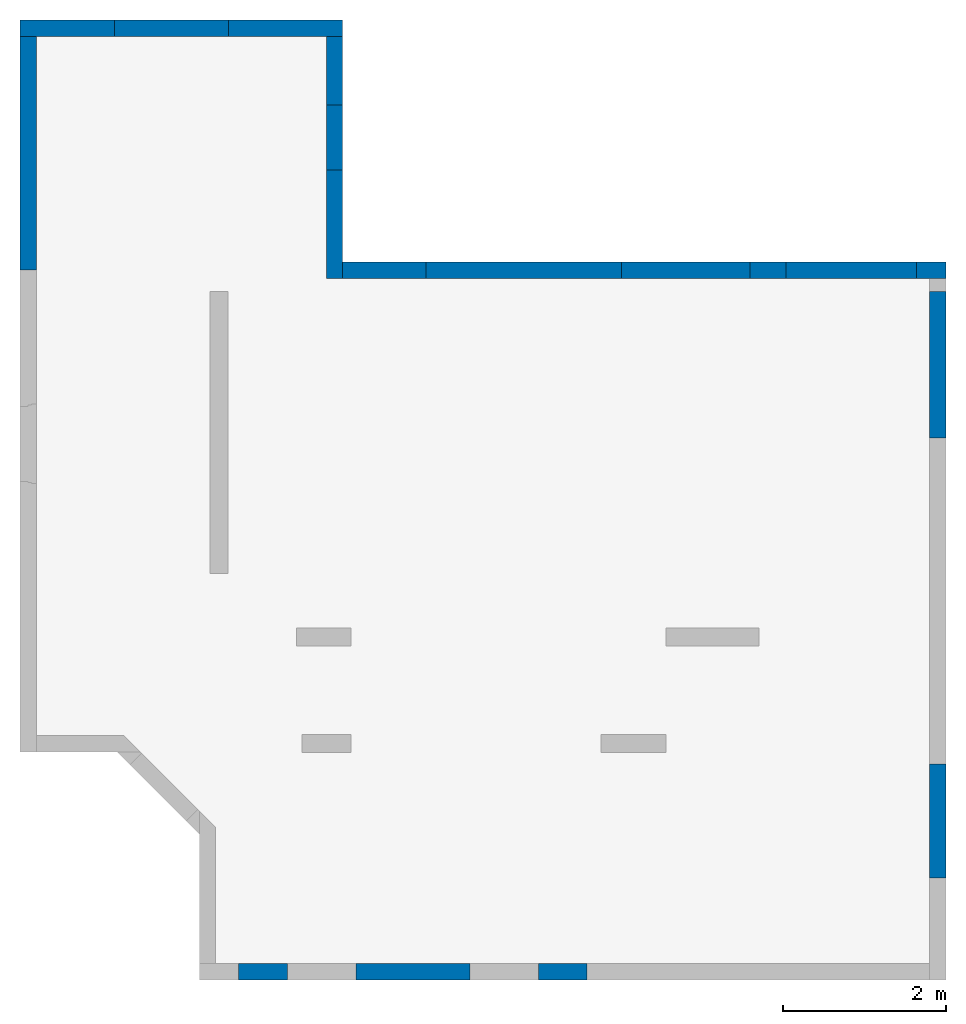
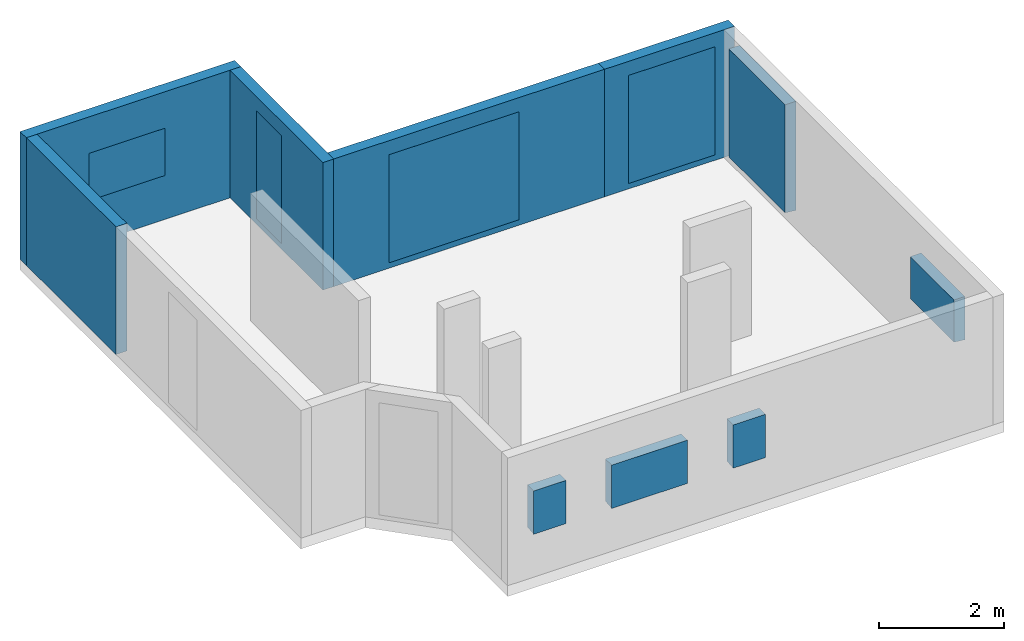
# One storey, part 2 of 3: 14 walls, 9 openings.
"""IFC2X3 building model written with IfcOpenShell, lengths in centimetres."""

import ifcopenshell
import ifcopenshell.guid

model = None  # the IFC model being written
_history = None  # IfcOwnerHistory: only IFC2X3 demands one
_inside = {}  # id of a spatial element -> (the spatial element, [elements in it])
_under = {}  # id of a project, library or spatial element -> (it, [spatial elements below it])
_declared = {}  # id of a project -> (the project, [libraries it declares])
_typed = {}  # id of a type object -> (the type object, [elements of that type])
_made_of = {}  # id of a material, layer set ... -> (it, [elements and type objects made of it])


def new_model(schema):
    """Start an empty IFC model of exactly this schema.

    Asked for "IFC4X3", IfcOpenShell would pick the latest addendum, in which some entities
    have other attributes; the version numbers below select the first issue.
    IFC2X3 requires an IfcOwnerHistory on every rooted entity: one is made here for all.
    """
    global model, _history
    if schema == "IFC4X3":
        model = ifcopenshell.file(schema_version=(4, 3, 0, 0))
    else:
        model = ifcopenshell.file(schema=schema)
    _inside.clear()
    _under.clear()
    _declared.clear()
    _typed.clear()
    _made_of.clear()
    _history = None
    if model.schema == "IFC2X3":
        org = make("IfcOrganization", Name="unknown")
        user = make(
            "IfcPersonAndOrganization",
            ThePerson=make("IfcPerson", FamilyName="unknown"),
            TheOrganization=org,
        )
        app = make(
            "IfcApplication",
            ApplicationDeveloper=org,
            Version="unknown",
            ApplicationFullName="unknown",
            ApplicationIdentifier="unknown",
        )
        _history = make(
            "IfcOwnerHistory",
            OwningUser=user,
            OwningApplication=app,
            ChangeAction="ADDED",
            CreationDate=0,
        )
    return model


def make(cls, **values):
    """One entity of the class cls with the attributes given. An attribute that is None is left unset."""
    return model.create_entity(
        cls, **{name: value for name, value in values.items() if value is not None}
    )


def entity(cls, *values):
    """Any entity or typed value of the class cls, its attributes in the order of the schema. None: left unset."""
    e = model.create_entity(cls)
    for i, value in enumerate(values):
        if value is not None:
            e[i] = value
    return e


def rooted(cls, **values):
    """An entity with a GlobalId (a new one), such as an element, a storey or a relation."""
    return make(cls, GlobalId=ifcopenshell.guid.new(), OwnerHistory=_history, **values)


def si_unit(unit_type, name, prefix=None):
    """IfcSIUnit, for example si_unit("LENGTHUNIT", "METRE", prefix="MILLI")."""
    return make("IfcSIUnit", UnitType=unit_type, Prefix=prefix, Name=name)


def converted_unit(unit_type, name, factor, base, dimensions=None, offset=None):
    """IfcConversionBasedUnit, such as the inch: factor (a typed value) times the base unit."""
    return make(
        "IfcConversionBasedUnit"
        if offset is None
        else "IfcConversionBasedUnitWithOffset",
        ConversionOffset=offset,
        Dimensions=None
        if dimensions is None
        else entity("IfcDimensionalExponents", *dimensions),
        UnitType=unit_type,
        Name=name,
        ConversionFactor=make(
            "IfcMeasureWithUnit", ValueComponent=factor, UnitComponent=base
        ),
    )


def derived_unit(unit_type, elements):
    """IfcDerivedUnit: a product of units, each with its exponent."""
    return make(
        "IfcDerivedUnit",
        Elements=[
            make("IfcDerivedUnitElement", Unit=unit, Exponent=power)
            for unit, power in elements
        ],
        UnitType=unit_type,
    )


def assignment(units):
    """IfcUnitAssignment: the units of a project."""
    return None if units is None else make("IfcUnitAssignment", Units=units)


def point(xyz):
    """IfcCartesianPoint."""
    return None if xyz is None else make("IfcCartesianPoint", Coordinates=xyz)


def direction(xyz):
    """IfcDirection."""
    return None if xyz is None else make("IfcDirection", DirectionRatios=xyz)


def frame(location, z_axis=None, x_axis=None):
    """IfcAxis2Placement3D, a coordinate frame: its origin and axes. An axis left out is left unset."""
    return make(
        "IfcAxis2Placement3D",
        Location=point(location),
        Axis=direction(z_axis),
        RefDirection=direction(x_axis),
    )


def frame_2d(location, x_axis=None):
    """IfcAxis2Placement2D, a coordinate frame in the plane: its origin and x axis."""
    return make(
        "IfcAxis2Placement2D", Location=point(location), RefDirection=direction(x_axis)
    )


def origin():
    """The frame at (0, 0, 0) with its axes left unset."""
    return frame((0.0, 0.0, 0.0))


def place(relative_to, where):
    """IfcLocalPlacement: puts the frame where relative to a parent placement (None: the world)."""
    return make(
        "IfcLocalPlacement", PlacementRelTo=relative_to, RelativePlacement=where
    )


def context(
    kind, dimensions, precision=None, world=None, true_north=None, identifier=None
):
    """IfcGeometricRepresentationContext, for example the 3D "Model" context."""
    return make(
        "IfcGeometricRepresentationContext",
        ContextIdentifier=identifier,
        ContextType=kind,
        CoordinateSpaceDimension=dimensions,
        Precision=precision,
        WorldCoordinateSystem=world,
        TrueNorth=true_north,
    )


def subcontext(parent, identifier, kind, view, scale=None):
    """IfcGeometricRepresentationSubContext, for example "Body" below "Model"."""
    return make(
        "IfcGeometricRepresentationSubContext",
        ContextIdentifier=identifier,
        ContextType=kind,
        ParentContext=parent,
        TargetScale=scale,
        TargetView=view,
    )


def project(units=None, contexts=None):
    """IfcProject with its units and contexts."""
    return rooted(
        "IfcProject",
        Name="project",
        RepresentationContexts=contexts,
        UnitsInContext=assignment(units),
    )


def spatial(cls, under=None, at=None, **own):
    """A site, building, storey or space (cls), placed at a placement, below another one or the project."""
    s = rooted(cls, ObjectPlacement=at, **own)
    if under is not None:
        _under.setdefault(under.id(), (under, []))[1].append(s)
    return s


def polyline(points):
    """IfcPolyline through the points."""
    return make("IfcPolyline", Points=[point(p) for p in points])


def profile(cls, at=None, kind="AREA", **sizes):
    """A parametric profile (cls). Its sizes go by their IFC names, for example OverallWidth=200.0."""
    return make(cls, ProfileType=kind, Position=at, **sizes)


def rectangle(**sizes):
    """IfcRectangleProfileDef."""
    return profile("IfcRectangleProfileDef", **sizes)


def extrude(swept, where, along, depth):
    """IfcExtrudedAreaSolid: the profile swept, set in the frame where, extruded along a direction by depth."""
    return make(
        "IfcExtrudedAreaSolid",
        SweptArea=swept,
        Position=where,
        ExtrudedDirection=direction(along),
        Depth=depth,
    )


def clip(a, b, op="DIFFERENCE"):
    """IfcBooleanClippingResult: the solid a cut by the half space b."""
    return make(
        "IfcBooleanClippingResult", Operator=op, FirstOperand=a, SecondOperand=b
    )


def bounded_halfspace(plane, agree, where, boundary):
    """IfcPolygonalBoundedHalfSpace: a half space limited to a polygon's prism."""
    return make(
        "IfcPolygonalBoundedHalfSpace",
        BaseSurface=make("IfcPlane", Position=plane),
        AgreementFlag=agree,
        Position=where,
        PolygonalBoundary=boundary,
    )


def faces_of(points, faces, orient=None, outer=None):
    """IfcFace entities. A face is a list of loops; a loop is a list of indices into points, from 0.

    orient and outer hold one flag for each loop. By default every Orientation is true, the
    first loop of a face is its IfcFaceOuterBound and the others are IfcFaceBound.
    """
    made = []
    for i, loops in enumerate(faces):
        bounds = []
        for j, loop in enumerate(loops):
            is_outer = j == 0 if outer is None else outer[i][j]
            bounds.append(
                make(
                    "IfcFaceOuterBound" if is_outer else "IfcFaceBound",
                    Bound=make("IfcPolyLoop", Polygon=[points[k] for k in loop]),
                    Orientation=True if orient is None else orient[i][j],
                )
            )
        made.append(make("IfcFace", Bounds=bounds))
    return made


def faceted_brep(points, faces, orient=None, outer=None, voids=None):
    """IfcFacetedBrep: a solid bounded by flat faces; with voids (closed shells), ...WithVoids."""
    shared = [point(p) for p in points]
    hull = make("IfcClosedShell", CfsFaces=faces_of(shared, faces, orient, outer))
    if voids is None:
        return make("IfcFacetedBrep", Outer=hull)
    return make(
        "IfcFacetedBrepWithVoids",
        Outer=hull,
        Voids=[
            make(cls, CfsFaces=faces_of(shared, fs, o, b)) for cls, fs, o, b in voids
        ],
    )


def shape(context_of_items, identifier, shape_type, items):
    """IfcShapeRepresentation: the items that make up one representation, for example the "Body"."""
    return make(
        "IfcShapeRepresentation",
        ContextOfItems=context_of_items,
        RepresentationIdentifier=identifier,
        RepresentationType=shape_type,
        Items=items,
    )


def material(Name=None, Category=None):
    """IfcMaterial."""
    return make("IfcMaterial", Name=Name, Category=Category)


def layer(
    of_material, thickness, ventilated=None, Name=None, Category=None, Priority=None
):
    """IfcMaterialLayer: one layer of a wall or slab, of a material (None: an air gap)."""
    return make(
        "IfcMaterialLayer",
        Material=of_material,
        LayerThickness=thickness,
        IsVentilated=ventilated,
        Name=Name,
        Category=Category,
        Priority=Priority,
    )


def layer_set(layers, Name=None):
    """IfcMaterialLayerSet."""
    return make("IfcMaterialLayerSet", MaterialLayers=layers, LayerSetName=Name)


def layer_usage(for_layer_set, set_direction, sense, offset, extent=None):
    """IfcMaterialLayerSetUsage: how a layer set lies in its element."""
    return make(
        "IfcMaterialLayerSetUsage",
        ForLayerSet=for_layer_set,
        LayerSetDirection=set_direction,
        DirectionSense=sense,
        OffsetFromReferenceLine=offset,
        ReferenceExtent=extent,
    )


def made_of(thing, what):
    """Note that an element or type object is made of a material, layer set ...; save() writes the relation."""
    if what is not None:
        _made_of.setdefault(what.id(), (what, []))[1].append(thing)
    return thing


def type_object(cls, material=None, **own):
    """A type object (cls), such as IfcWallType, which elements share."""
    return made_of(rooted(cls, **own), material)


def element(
    cls,
    number,
    at=None,
    inside=None,
    cuts=None,
    type_object=None,
    material=None,
    context=None,
    identifier="Body",
    shape_type=None,
    held_by="IfcProductDefinitionShape",
    body=None,
    shapes=None,
    **own,
):
    """One element of the class cls, such as IfcWall. Its Tag is "e" and its number.

    at: its placement. inside: the storey or other place that contains it. cuts: it is an
    opening in that element (IfcRelVoidsElement). A single representation is given by context,
    identifier, shape_type and body (its items); several are given by shapes. held_by: the class
    of the entity that holds the representations. save() writes the other relations.
    """
    e = rooted(cls, Tag="e%d" % number, ObjectPlacement=at, **own)
    if body is not None:
        shapes = [shape(context, identifier, shape_type, body)]
    if shapes is not None:
        e.Representation = make(held_by, Representations=shapes)
    if inside is not None:
        _inside.setdefault(inside.id(), (inside, []))[1].append(e)
    if cuts is not None:
        rooted(
            "IfcRelVoidsElement", RelatingBuildingElement=cuts, RelatedOpeningElement=e
        )
    if type_object is not None:
        _typed.setdefault(type_object.id(), (type_object, []))[1].append(e)
    return made_of(e, material)


def aggregate(whole, parts):
    """IfcRelAggregates: a whole, such as a stair, and the parts it consists of."""
    return rooted("IfcRelAggregates", RelatingObject=whole, RelatedObjects=parts)


def save(model, path):
    """Write the relations noted so far, then the file.

    IfcRelAggregates (storeys below a building ...), IfcRelContainedInSpatialStructure (elements
    in a storey), IfcRelDefinesByType, IfcRelAssociatesMaterial and IfcRelDeclares: one each for
    every whole, place, type object, material and project.
    """
    for whole, parts in _under.values():
        aggregate(whole, parts)
    for where, things in _inside.values():
        rooted(
            "IfcRelContainedInSpatialStructure",
            RelatedElements=things,
            RelatingStructure=where,
        )
    for kind, things in _typed.values():
        rooted("IfcRelDefinesByType", RelatedObjects=things, RelatingType=kind)
    for what, things in _made_of.values():
        rooted("IfcRelAssociatesMaterial", RelatedObjects=things, RelatingMaterial=what)
    for by, libraries in _declared.values():
        rooted("IfcRelDeclares", RelatingContext=by, RelatedDefinitions=libraries)
    model.write(path)


model = new_model("IFC2X3")

# Units and contexts
model_context = context("Model", 3, precision=0.001, world=origin(), true_north=direction((6.123031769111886e-17, 1.0)))
body_context = subcontext(model_context, "Body", "Model", "MODEL_VIEW")
ifc_project = project(units=[si_unit("LENGTHUNIT", "METRE", prefix="CENTI"), si_unit("AREAUNIT", "SQUARE_METRE"), si_unit("VOLUMEUNIT", "CUBIC_METRE"), converted_unit("PLANEANGLEUNIT", "DEGREE", entity("IfcRatioMeasure", 0.017453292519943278), si_unit("PLANEANGLEUNIT", "RADIAN"), dimensions=[0, 0, 0, 0, 0, 0, 0]), si_unit("MASSUNIT", "GRAM", prefix="KILO"), derived_unit("MASSDENSITYUNIT", [(si_unit("MASSUNIT", "GRAM", prefix="KILO"), 1), (si_unit("LENGTHUNIT", "METRE"), -3)]), derived_unit("MOMENTOFINERTIAUNIT", [(si_unit("LENGTHUNIT", "METRE"), 4)]), si_unit("TIMEUNIT", "SECOND"), si_unit("FREQUENCYUNIT", "HERTZ"), si_unit("THERMODYNAMICTEMPERATUREUNIT", "DEGREE_CELSIUS"), derived_unit("THERMALTRANSMITTANCEUNIT", [(si_unit("MASSUNIT", "GRAM", prefix="KILO"), 1), (si_unit("THERMODYNAMICTEMPERATUREUNIT", "KELVIN"), -1), (si_unit("TIMEUNIT", "SECOND"), -3)]), derived_unit("VOLUMETRICFLOWRATEUNIT", [(si_unit("LENGTHUNIT", "METRE"), 3), (si_unit("TIMEUNIT", "SECOND"), -1)]), derived_unit("MASSFLOWRATEUNIT", [(si_unit("MASSUNIT", "GRAM", prefix="KILO"), 1), (si_unit("TIMEUNIT", "SECOND"), -1)]), derived_unit("ROTATIONALFREQUENCYUNIT", [(si_unit("TIMEUNIT", "SECOND"), -1)]), si_unit("ELECTRICCURRENTUNIT", "AMPERE"), si_unit("ELECTRICVOLTAGEUNIT", "VOLT"), si_unit("POWERUNIT", "WATT"), si_unit("FORCEUNIT", "NEWTON", prefix="KILO"), si_unit("ILLUMINANCEUNIT", "LUX"), si_unit("LUMINOUSFLUXUNIT", "LUMEN"), si_unit("LUMINOUSINTENSITYUNIT", "CANDELA"), derived_unit("USERDEFINED", [(si_unit("MASSUNIT", "GRAM", prefix="KILO"), -1), (si_unit("LENGTHUNIT", "METRE"), -2), (si_unit("TIMEUNIT", "SECOND"), 3), (si_unit("LUMINOUSFLUXUNIT", "LUMEN"), 1)]), derived_unit("SOUNDPOWERUNIT", [(si_unit("MASSUNIT", "GRAM", prefix="KILO"), 1), (si_unit("LENGTHUNIT", "METRE"), 2), (si_unit("TIMEUNIT", "SECOND"), -3)]), derived_unit("SOUNDPRESSUREUNIT", [(si_unit("MASSUNIT", "GRAM", prefix="KILO"), 1), (si_unit("LENGTHUNIT", "METRE"), -1), (si_unit("TIMEUNIT", "SECOND"), -2)]), derived_unit("LINEARVELOCITYUNIT", [(si_unit("LENGTHUNIT", "METRE"), 1), (si_unit("TIMEUNIT", "SECOND"), -1)]), si_unit("PRESSUREUNIT", "PASCAL"), derived_unit("USERDEFINED", [(si_unit("LENGTHUNIT", "METRE"), -2), (si_unit("MASSUNIT", "GRAM", prefix="KILO"), 1), (si_unit("TIMEUNIT", "SECOND"), -2)]), derived_unit("LINEARFORCEUNIT", [(si_unit("MASSUNIT", "GRAM", prefix="KILO"), 1), (si_unit("LENGTHUNIT", "METRE"), 1), (si_unit("TIMEUNIT", "SECOND"), -2), (si_unit("LENGTHUNIT", "METRE"), -1)]), derived_unit("PLANARFORCEUNIT", [(si_unit("MASSUNIT", "GRAM", prefix="KILO"), 1), (si_unit("LENGTHUNIT", "METRE"), 1), (si_unit("TIMEUNIT", "SECOND"), -2), (si_unit("LENGTHUNIT", "METRE"), -2)])], contexts=[model_context])

# Site, building, storey
site_placement = place(None, frame((1412.1772603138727, -701.9923171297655, 0.0)))
site = spatial("IfcSite", under=ifc_project, at=site_placement, Name="Default", CompositionType="ELEMENT")
building_placement = place(site_placement, origin())
building = spatial("IfcBuilding", under=site, at=building_placement, CompositionType="ELEMENT")
storey_placement = place(building_placement, frame((0.0, 0.0, -8.0)))
storey = spatial("IfcBuildingStorey", under=building, at=storey_placement, Name="-0.08_Dessus plancher", CompositionType="ELEMENT", Elevation=-8.000000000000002)

# Wall, opening
ifc_material = material(Name="Maçonnerie - Béton")
ifc_layer = layer(ifc_material, 20.0)
ifc_layer_set = layer_set([ifc_layer], Name="Mur de base:Mur 20")
ifc_layer_usage_1 = layer_usage(ifc_layer_set, "AXIS2", "NEGATIVE", 10.0)
wall_type = type_object("IfcWallType", Name="Mur de base:Mur 20", PredefinedType="STANDARD", material=ifc_layer_set)
wall_1_placement = place(storey_placement, frame((-1788.1772603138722, 1008.9923171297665, 0.0)))
wall_1 = element("IfcWallStandardCase", 1, at=wall_1_placement, inside=storey, type_object=wall_type, material=ifc_layer_usage_1, Name="Mur de base:Mur 20", ObjectType="Mur de base:Mur 20", context=body_context, shape_type="Clipping", body=[
    clip(extrude(rectangle(XDim=395.99999999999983, YDim=20.0, at=frame_2d((197.99999999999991, -1.1546319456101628e-13), x_axis=(-1.0, 0.0))), origin(), (0.0, 0.0, 1.0), 249.00000000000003), bounded_halfspace(frame((0.0, -10.0, 249.0), z_axis=(0.0, 0.0, -1.0), x_axis=(0.0, -1.0, 0.0)), True, frame((0.0, -10.0, 249.0)), polyline([(0.0, 0.0), (609.6, 0.0), (11460.479999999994, 0.0), (12070.079999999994, 0.0), (12070.079999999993, 609.6), (0.0, 609.6), (0.0, 0.0)]))),
])
opening_1_placement = place(wall_1_placement, frame((111.0, -68.0, 81.24478823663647)))
element("IfcOpeningElement", 2, at=opening_1_placement, cuts=wall_1, Name="Mur de base:Mur 20", ObjectType="Opening", context=body_context, shape_type="Brep", body=[
    faceted_brep([(5.0, 50.0, 6.755211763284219), (5.0, 52.0, 6.755211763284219), (5.0, 52.0, 96.75521176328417), (5.0, 100.0, 96.75521176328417), (5.0, 100.0, 0.0), (5.0, 50.0, 5.255211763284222), (145.0, 0.0, 6.755211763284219), (145.0, 42.0, 6.755211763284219), (145.0, 42.0, 96.75521176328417), (145.0, 0.0, 96.75521176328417), (5.0, 0.0, 6.755211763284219), (5.0, 42.0, 6.755211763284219), (0.0, 42.0, 6.755211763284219), (0.0, 47.0, 6.755211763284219), (4.0, 47.0, 6.755211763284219), (4.0, 52.0, 6.755211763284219), (145.0, 50.0, 6.755211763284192), (145.0, 52.0, 6.755211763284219), (146.0, 52.0, 6.755211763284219), (146.0, 47.0, 6.755211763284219), (150.0, 47.0, 6.755211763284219), (150.0, 42.0, 6.755211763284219), (5.0, 0.0, 96.75521176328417), (145.0, 52.0, 96.75521176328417), (145.0, 100.0, 96.75521176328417), (145.0, 100.0, 0.0), (145.0, 50.0, 5.255211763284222), (0.0, 42.0, 101.75521176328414), (0.0, 47.0, 101.75521176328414), (150.0, 47.0, 101.75521176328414), (146.0, 47.0, 97.75521176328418), (4.0, 47.0, 97.75521176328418), (4.0, 52.0, 97.75521176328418), (146.0, 52.0, 97.75521176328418), (5.0, 42.0, 96.75521176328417), (150.0, 42.0, 101.75521176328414)], [[[0, 1, 2, 3, 4, 5]], [[6, 7, 8, 9]], [[10, 11, 12, 13, 14, 15, 1, 0, 16, 17, 18, 19, 20, 21, 7, 6]], [[10, 6, 9, 22]], [[3, 2, 23, 24]], [[3, 24, 25, 4]], [[4, 25, 26, 5]], [[5, 26, 16, 0]], [[12, 27, 28, 13]], [[13, 28, 29, 20, 19, 30, 31, 14]], [[14, 31, 32, 15]], [[15, 32, 33, 18, 17, 23, 2, 1]], [[11, 34, 8, 7, 21, 35, 27, 12]], [[27, 35, 29, 28]], [[30, 33, 32, 31]], [[29, 35, 21, 20]], [[19, 18, 33, 30]], [[9, 8, 34, 22]], [[24, 23, 17, 16, 26, 25]], [[22, 34, 11, 10]]]),
])

ifc_layer_usage_2 = layer_usage(ifc_layer_set, "AXIS2", "NEGATIVE", 10.0)
wall_2_placement = place(storey_placement, frame((-1402.1772603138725, 998.9923171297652, 0.0), z_axis=(0.0, 0.0, 1.0), x_axis=(0.0, -1.0, 0.0)))
wall_2 = element("IfcWallStandardCase", 3, at=wall_2_placement, inside=storey, type_object=wall_type, material=ifc_layer_usage_2, Name="Mur de base:Mur 20", ObjectType="Mur de base:Mur 20", context=body_context, shape_type="Clipping", body=[
    clip(extrude(rectangle(XDim=296.9999999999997, YDim=20.0, at=frame_2d((148.49999999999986, 1.0835776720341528e-13), x_axis=(-1.0, 0.0))), origin(), (0.0, 0.0, 1.0), 249.00000000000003), bounded_halfspace(frame((0.0, 10.0, 249.0), z_axis=(0.0, 0.0, -1.0), x_axis=(1.0, 0.0, 0.0)), True, frame((0.0, 10.0, 249.0)), polyline([(0.0, 0.0), (0.0, -609.6), (9052.559999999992, -609.6), (9052.559999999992, 0.0), (8442.959999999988, 0.0), (0.0, 0.0)]))),
])
opening_2_placement = place(wall_2_placement, frame((169.0, -68.0, 8.0)))
element("IfcOpeningElement", 4, at=opening_2_placement, cuts=wall_2, Name="Mur de base:Mur 20", ObjectType="Opening", context=body_context, shape_type="Brep", body=[
    faceted_brep([(-85.0, 50.0, 3.500000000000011), (-85.0, 52.0, 3.499999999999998), (-85.0, 52.0, 213.50000000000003), (-85.0, 100.0, 213.50000000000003), (-85.0, 100.0, 0.0), (-85.0, 83.30027558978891, 0.0), (-5.0, 0.0, 3.500000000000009), (-5.0, 42.0, 3.500000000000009), (-5.0, 42.0, 213.50000000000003), (-5.0, 0.0, 213.50000000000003), (-85.0, 0.0, 3.500000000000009), (-85.0, 42.0, 3.500000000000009), (-90.0, 42.0, 3.500000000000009), (-90.0, 47.0, 3.500000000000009), (-86.0, 47.0, 3.500000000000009), (-86.0, 52.0, 3.500000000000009), (-5.0, 50.0, 3.4999999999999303), (-5.0, 52.0, 3.500000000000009), (-4.0, 52.0, 3.500000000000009), (-4.0, 47.0, 3.500000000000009), (0.0, 47.0, 3.500000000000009), (0.0, 42.0, 3.500000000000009), (-85.0, 0.0, 213.50000000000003), (-5.0, 52.0, 213.50000000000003), (-5.0, 100.0, 213.5), (-5.0, 100.0, 0.0), (-5.0, 83.3002755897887, 0.0), (-90.0, 42.0, 218.49999999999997), (-90.0, 47.0, 218.5), (0.0, 47.0, 218.49999999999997), (-4.0, 47.0, 214.5), (-86.0, 47.0, 214.50000000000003), (-86.0, 52.0, 214.50000000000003), (-4.0, 52.0, 214.50000000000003), (-85.0, 42.0, 213.5), (0.0, 42.0, 218.49999999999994)], [[[0, 1, 2, 3, 4, 5]], [[6, 7, 8, 9]], [[10, 11, 12, 13, 14, 15, 1, 0, 16, 17, 18, 19, 20, 21, 7, 6]], [[10, 6, 9, 22]], [[3, 2, 23, 24]], [[3, 24, 25, 4]], [[4, 25, 26, 5]], [[5, 26, 16, 0]], [[12, 27, 28, 13]], [[13, 28, 29, 20, 19, 30, 31, 14]], [[14, 31, 32, 15]], [[15, 32, 33, 18, 17, 23, 2, 1]], [[11, 34, 8, 7, 21, 35, 27, 12]], [[27, 35, 29, 28]], [[30, 33, 32, 31]], [[29, 35, 21, 20]], [[19, 18, 33, 30]], [[9, 8, 34, 22]], [[24, 23, 17, 16, 26, 25]], [[22, 34, 11, 10]]]),
])

# Wall, openings
ifc_layer_usage_3 = layer_usage(ifc_layer_set, "AXIS2", "NEGATIVE", 10.0)
wall_3_placement = place(storey_placement, frame((-1392.1772603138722, 711.9923171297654, 0.0)))
wall_3 = element("IfcWallStandardCase", 5, at=wall_3_placement, inside=storey, type_object=wall_type, material=ifc_layer_usage_3, Name="Mur de base:Mur 20", ObjectType="Mur de base:Mur 20", context=body_context, shape_type="Clipping", body=[
    clip(extrude(rectangle(XDim=500.0000000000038, YDim=20.0, at=frame_2d((250.0000000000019, 0.0), x_axis=(-1.0, 0.0))), origin(), (0.0, 0.0, 1.0), 249.00000000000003), bounded_halfspace(frame((0.0, -10.0, 249.0), z_axis=(0.0, 0.0, -1.0), x_axis=(0.0, -1.0, 0.0)), True, frame((0.0, -10.0, 249.0)), polyline([(0.0, 0.0), (15240.0, 0.0), (15240.0, 609.6), (0.0, 609.6), (0.0, 0.0)]))),
])
opening_3_placement = place(wall_3_placement, frame((97.0, -68.0, 8.0)))
element("IfcOpeningElement", 6, at=opening_3_placement, cuts=wall_3, Name="Mur de base:Mur 20", ObjectType="Opening", context=body_context, shape_type="Brep", body=[
    faceted_brep([(5.0, 50.0, 3.500000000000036), (5.0, 52.0, 3.500000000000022), (5.0, 52.0, 213.50000000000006), (5.0, 100.0, 213.50000000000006), (5.0, 100.0, 0.0), (5.0, 83.30027558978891, 0.0), (245.0, 0.0, 3.500000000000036), (245.0, 42.0, 3.500000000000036), (245.0, 42.0, 213.50000000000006), (245.0, 0.0, 213.50000000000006), (5.0, 0.0, 3.500000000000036), (5.0, 42.0, 3.500000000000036), (0.0, 42.0, 3.500000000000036), (0.0, 47.0, 3.500000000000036), (4.0, 47.0, 3.500000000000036), (4.0, 52.0, 3.500000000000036), (245.0, 50.0, 3.500000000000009), (245.0, 52.0, 3.500000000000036), (246.0, 52.0, 3.500000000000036), (246.0, 47.0, 3.500000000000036), (250.0, 47.0, 3.500000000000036), (250.0, 42.0, 3.500000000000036), (5.0, 0.0, 213.50000000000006), (245.0, 52.0, 213.50000000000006), (245.0, 100.0, 213.50000000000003), (245.0, 100.0, 0.0), (245.0, 83.30027558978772, 0.0), (0.0, 42.0, 218.5), (0.0, 47.0, 218.5), (250.0, 47.0, 218.5), (246.0, 47.0, 214.50000000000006), (4.0, 47.0, 214.50000000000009), (4.0, 52.0, 214.50000000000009), (246.0, 52.0, 214.50000000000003), (5.0, 42.0, 213.50000000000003), (250.0, 42.0, 218.5)], [[[0, 1, 2, 3, 4, 5]], [[6, 7, 8, 9]], [[10, 11, 12, 13, 14, 15, 1, 0, 16, 17, 18, 19, 20, 21, 7, 6]], [[10, 6, 9, 22]], [[3, 2, 23, 24]], [[3, 24, 25, 4]], [[4, 25, 26, 5]], [[5, 26, 16, 0]], [[12, 27, 28, 13]], [[13, 28, 29, 20, 19, 30, 31, 14]], [[14, 31, 32, 15]], [[15, 32, 33, 18, 17, 23, 2, 1]], [[11, 34, 8, 7, 21, 35, 27, 12]], [[27, 35, 29, 28]], [[30, 33, 32, 31]], [[29, 35, 21, 20]], [[19, 18, 33, 30]], [[9, 8, 34, 22]], [[24, 23, 17, 16, 26, 25]], [[22, 34, 11, 10]]]),
])
opening_4_placement = place(wall_3_placement, frame((539.0, -68.0, 8.0)))
element("IfcOpeningElement", 7, at=opening_4_placement, cuts=wall_3, Name="Mur de base:Mur 20", ObjectType="Opening", context=body_context, shape_type="Brep", body=[
    faceted_brep([(5.0, 50.0, 3.500000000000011), (5.0, 52.0, 3.499999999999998), (5.0, 52.0, 213.50000000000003), (5.0, 100.0, 213.50000000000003), (5.0, 100.0, 0.0), (5.0, 83.30027558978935, 0.0), (165.0, 0.0, 3.500000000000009), (165.0, 42.0, 3.500000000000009), (165.0, 42.0, 213.50000000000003), (165.0, 0.0, 213.50000000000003), (5.0, 0.0, 3.500000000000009), (5.0, 42.0, 3.500000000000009), (0.0, 42.0, 3.500000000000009), (0.0, 47.0, 3.500000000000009), (4.0, 47.0, 3.500000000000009), (4.0, 52.0, 3.500000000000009), (165.0, 50.0, 3.4999999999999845), (165.0, 52.0, 3.500000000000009), (166.0, 52.0, 3.500000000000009), (166.0, 47.0, 3.500000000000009), (170.0, 47.0, 3.500000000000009), (170.0, 42.0, 3.500000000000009), (5.0, 0.0, 213.50000000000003), (165.0, 52.0, 213.50000000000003), (165.0, 100.0, 213.5), (165.0, 100.0, 0.0), (165.0, 83.30027558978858, 0.0), (0.0, 42.0, 218.5), (0.0, 47.0, 218.5), (170.0, 47.0, 218.5), (166.0, 47.0, 214.50000000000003), (4.0, 47.0, 214.50000000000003), (4.0, 52.0, 214.50000000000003), (166.0, 52.0, 214.50000000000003), (5.0, 42.0, 213.5), (170.0, 42.0, 218.49999999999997)], [[[0, 1, 2, 3, 4, 5]], [[6, 7, 8, 9]], [[10, 11, 12, 13, 14, 15, 1, 0, 16, 17, 18, 19, 20, 21, 7, 6]], [[10, 6, 9, 22]], [[3, 2, 23, 24]], [[3, 24, 25, 4]], [[4, 25, 26, 5]], [[5, 26, 16, 0]], [[12, 27, 28, 13]], [[13, 28, 29, 20, 19, 30, 31, 14]], [[14, 31, 32, 15]], [[15, 32, 33, 18, 17, 23, 2, 1]], [[11, 34, 8, 7, 21, 35, 27, 12]], [[27, 35, 29, 28]], [[30, 33, 32, 31]], [[29, 35, 21, 20]], [[19, 18, 33, 30]], [[9, 8, 34, 22]], [[24, 23, 17, 16, 26, 25]], [[22, 34, 11, 10]]]),
])
opening_5_placement = place(wall_3_placement, frame((662.0, -211.0, 8.0)))
element("IfcOpeningElement", 8, at=opening_5_placement, cuts=wall_3, Name="Mur de base:Mur 20", ObjectType="Opening", context=body_context, shape_type="Brep", body=[
    faceted_brep([(50.0, 185.0, 3.500000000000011), (52.0, 185.0, 3.499999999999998), (52.0, 185.0, 213.50000000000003), (100.0, 185.0, 213.50000000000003), (100.0, 185.0, 0.0), (83.30027558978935, 185.0, 0.0), (0.0, 5.0, 3.500000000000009), (42.0, 5.0, 3.500000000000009), (42.0, 5.0, 213.50000000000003), (0.0, 5.0, 213.50000000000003), (0.0, 185.0, 3.500000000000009), (42.0, 185.0, 3.500000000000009), (42.0, 190.0, 3.500000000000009), (47.0, 190.0, 3.500000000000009), (47.0, 186.0, 3.500000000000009), (52.0, 186.0, 3.500000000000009), (50.0, 5.0, 3.4999999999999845), (52.0, 5.0, 3.500000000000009), (52.0, 4.0, 3.500000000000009), (47.0, 4.0, 3.500000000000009), (47.0, 0.0, 3.500000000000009), (42.0, 0.0, 3.500000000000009), (0.0, 185.0, 213.50000000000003), (52.0, 5.0, 213.50000000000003), (100.0, 5.0, 213.5), (100.0, 5.0, 0.0), (83.3002755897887, 5.0, 0.0), (42.0, 190.0, 218.5), (47.0, 190.0, 218.5), (47.0, 0.0, 218.5), (47.0, 4.0, 214.50000000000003), (47.0, 186.0, 214.50000000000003), (52.0, 186.0, 214.50000000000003), (52.0, 4.0, 214.50000000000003), (42.0, 185.0, 213.5), (42.0, 0.0, 218.49999999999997)], [[[0, 1, 2, 3, 4, 5]], [[6, 7, 8, 9]], [[10, 11, 12, 13, 14, 15, 1, 0, 16, 17, 18, 19, 20, 21, 7, 6]], [[10, 6, 9, 22]], [[3, 2, 23, 24]], [[3, 24, 25, 4]], [[4, 25, 26, 5]], [[5, 26, 16, 0]], [[12, 27, 28, 13]], [[13, 28, 29, 20, 19, 30, 31, 14]], [[14, 31, 32, 15]], [[15, 32, 33, 18, 17, 23, 2, 1]], [[11, 34, 8, 7, 21, 35, 27, 12]], [[27, 35, 29, 28]], [[30, 33, 32, 31]], [[29, 35, 21, 20]], [[19, 18, 33, 30]], [[9, 8, 34, 22]], [[24, 23, 17, 16, 26, 25]], [[22, 34, 11, 10]]]),
])

# Wall, opening
ifc_layer_usage_4 = layer_usage(ifc_layer_set, "AXIS2", "POSITIVE", -10.0)
wall_4_placement = place(storey_placement, frame((-1778.177260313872, 998.9923171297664, 0.0), z_axis=(0.0, 0.0, 1.0), x_axis=(0.0, -1.0, 0.0)))
wall_4 = element("IfcWallStandardCase", 9, at=wall_4_placement, inside=storey, type_object=wall_type, material=ifc_layer_usage_4, Name="Mur de base:Mur 20", ObjectType="Mur de base:Mur 20", context=body_context, shape_type="Clipping", body=[
    clip(extrude(rectangle(XDim=286.99999999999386, YDim=20.0, at=frame_2d((143.49999999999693, -1.0835776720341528e-13), x_axis=(-1.0, 0.0))), origin(), (0.0, 0.0, 1.0), 249.00000000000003), bounded_halfspace(frame((0.0, -10.0, 249.0), z_axis=(0.0, 0.0, -1.0), x_axis=(1.0, 0.0, 0.0)), True, frame((0.0, -10.0, 249.0)), polyline([(0.0, 0.0), (8747.759999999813, 0.0), (8747.759999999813, 609.6), (0.0, 609.6), (0.0, 0.0)]))),
])
opening_6_placement = place(wall_4_placement, frame((549.0, -40.0, 8.0)))
element("IfcOpeningElement", 10, at=opening_6_placement, cuts=wall_4, Name="Mur de base:Mur 20", ObjectType="Opening", context=body_context, shape_type="Brep", body=[
    faceted_brep([(-3.0, 80.0, 216.0), (-95.0, 80.0, 216.0), (-95.0, 50.0, 216.0), (-3.0, 50.0, 216.0), (-3.0, 0.0, 0.0), (-95.0, 0.0, 0.0), (-95.0, 40.0, 0.0), (-96.49999999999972, 40.0, 0.0), (-96.49999999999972, 44.30000000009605, 0.0), (-98.0, 44.30000000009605, 0.0), (-98.0, 50.0, 0.0), (-95.0, 50.0, 0.0), (-95.0, 80.0, 0.0), (-3.0, 80.0, 0.0), (-3.0, 50.0, 0.0), (0.0, 50.0, 0.0), (0.0, 44.30000000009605, 0.0), (-1.4999999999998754, 44.30000000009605, 0.0), (-1.4999999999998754, 40.0, 0.0), (-3.0, 40.0, 0.0), (-3.0, 0.0, 216.0), (-95.0, 0.0, 216.0), (-95.0, 40.0, 216.0), (0.0, 44.30000000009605, 219.0), (-98.0, 44.30000000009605, 219.0), (-96.49999999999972, 44.30000000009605, 217.4999999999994), (-1.4999999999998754, 44.30000000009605, 217.4999999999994), (-98.0, 50.0, 219.0), (0.0, 50.0, 219.0), (-96.49999999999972, 40.0, 217.4999999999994), (-3.0, 40.0, 216.0), (-1.4999999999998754, 40.0, 217.4999999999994)], [[[0, 1, 2, 3]], [[4, 5, 6, 7, 8, 9, 10, 11, 12, 13, 14, 15, 16, 17, 18, 19]], [[13, 0, 3, 14]], [[20, 21, 5, 4]], [[5, 21, 22, 6]], [[1, 0, 13, 12]], [[16, 23, 24, 9, 8, 25, 26, 17]], [[11, 10, 27, 28, 15, 14, 3, 2]], [[10, 9, 24, 27]], [[24, 23, 28, 27]], [[23, 16, 15, 28]], [[8, 7, 29, 25]], [[7, 6, 22, 30, 19, 18, 31, 29]], [[25, 29, 31, 26]], [[31, 18, 17, 26]], [[1, 12, 11, 2]], [[20, 4, 19, 30]], [[21, 20, 30, 22]]]),
])

# Wall, openings
ifc_layer_usage_5 = layer_usage(ifc_layer_set, "AXIS2", "NEGATIVE", 10.0)
wall_5_placement = place(storey_placement, frame((-892.1772603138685, 711.9923171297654, 0.0)))
wall_5 = element("IfcWallStandardCase", 11, at=wall_5_placement, inside=storey, type_object=wall_type, material=ifc_layer_usage_5, Name="Mur de base:Mur 20", ObjectType="Mur de base:Mur 20", context=body_context, shape_type="Clipping", body=[
    clip(extrude(rectangle(XDim=239.99999999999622, YDim=20.0, at=frame_2d((119.99999999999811, 0.0), x_axis=(-1.0, 0.0))), origin(), (0.0, 0.0, 1.0), 249.00000000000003), bounded_halfspace(frame((0.0, -10.0, 249.0), z_axis=(0.0, 0.0, -1.0), x_axis=(0.0, -1.0, 0.0)), True, frame((0.0, -10.0, 249.0)), polyline([(0.0, 0.0), (6705.599999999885, 0.0), (7315.199999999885, 0.0), (7315.199999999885, 609.6), (0.0, 609.6), (0.0, 0.0)]))),
])
opening_7_placement = place(wall_5_placement, frame((-403.0, -68.0, 8.0)))
element("IfcOpeningElement", 12, at=opening_7_placement, cuts=wall_5, Name="Mur de base:Mur 20", ObjectType="Opening", context=body_context, shape_type="Brep", body=[
    faceted_brep([(5.0, 50.0, 3.500000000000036), (5.0, 52.0, 3.500000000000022), (5.0, 52.0, 213.50000000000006), (5.0, 100.0, 213.50000000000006), (5.0, 100.0, 0.0), (5.0, 83.30027558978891, 0.0), (245.0, 0.0, 3.500000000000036), (245.0, 42.0, 3.500000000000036), (245.0, 42.0, 213.50000000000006), (245.0, 0.0, 213.50000000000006), (5.0, 0.0, 3.500000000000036), (5.0, 42.0, 3.500000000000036), (0.0, 42.0, 3.500000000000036), (0.0, 47.0, 3.500000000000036), (4.0, 47.0, 3.500000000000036), (4.0, 52.0, 3.500000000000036), (245.0, 50.0, 3.500000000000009), (245.0, 52.0, 3.500000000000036), (246.0, 52.0, 3.500000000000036), (246.0, 47.0, 3.500000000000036), (250.0, 47.0, 3.500000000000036), (250.0, 42.0, 3.500000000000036), (5.0, 0.0, 213.50000000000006), (245.0, 52.0, 213.50000000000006), (245.0, 100.0, 213.50000000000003), (245.0, 100.0, 0.0), (245.0, 83.30027558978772, 0.0), (0.0, 42.0, 218.5), (0.0, 47.0, 218.5), (250.0, 47.0, 218.5), (246.0, 47.0, 214.50000000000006), (4.0, 47.0, 214.50000000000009), (4.0, 52.0, 214.50000000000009), (246.0, 52.0, 214.50000000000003), (5.0, 42.0, 213.50000000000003), (250.0, 42.0, 218.5)], [[[0, 1, 2, 3, 4, 5]], [[6, 7, 8, 9]], [[10, 11, 12, 13, 14, 15, 1, 0, 16, 17, 18, 19, 20, 21, 7, 6]], [[10, 6, 9, 22]], [[3, 2, 23, 24]], [[3, 24, 25, 4]], [[4, 25, 26, 5]], [[5, 26, 16, 0]], [[12, 27, 28, 13]], [[13, 28, 29, 20, 19, 30, 31, 14]], [[14, 31, 32, 15]], [[15, 32, 33, 18, 17, 23, 2, 1]], [[11, 34, 8, 7, 21, 35, 27, 12]], [[27, 35, 29, 28]], [[30, 33, 32, 31]], [[29, 35, 21, 20]], [[19, 18, 33, 30]], [[9, 8, 34, 22]], [[24, 23, 17, 16, 26, 25]], [[22, 34, 11, 10]]]),
])
opening_8_placement = place(wall_5_placement, frame((39.0, -68.0, 8.0)))
element("IfcOpeningElement", 13, at=opening_8_placement, cuts=wall_5, Name="Mur de base:Mur 20", ObjectType="Opening", context=body_context, shape_type="Brep", body=[
    faceted_brep([(5.0, 50.0, 3.500000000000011), (5.0, 52.0, 3.499999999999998), (5.0, 52.0, 213.50000000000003), (5.0, 100.0, 213.50000000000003), (5.0, 100.0, 0.0), (5.0, 83.30027558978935, 0.0), (165.0, 0.0, 3.500000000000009), (165.0, 42.0, 3.500000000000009), (165.0, 42.0, 213.50000000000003), (165.0, 0.0, 213.50000000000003), (5.0, 0.0, 3.500000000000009), (5.0, 42.0, 3.500000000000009), (0.0, 42.0, 3.500000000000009), (0.0, 47.0, 3.500000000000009), (4.0, 47.0, 3.500000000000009), (4.0, 52.0, 3.500000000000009), (165.0, 50.0, 3.4999999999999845), (165.0, 52.0, 3.500000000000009), (166.0, 52.0, 3.500000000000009), (166.0, 47.0, 3.500000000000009), (170.0, 47.0, 3.500000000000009), (170.0, 42.0, 3.500000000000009), (5.0, 0.0, 213.50000000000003), (165.0, 52.0, 213.50000000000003), (165.0, 100.0, 213.5), (165.0, 100.0, 0.0), (165.0, 83.30027558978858, 0.0), (0.0, 42.0, 218.5), (0.0, 47.0, 218.5), (170.0, 47.0, 218.5), (166.0, 47.0, 214.50000000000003), (4.0, 47.0, 214.50000000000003), (4.0, 52.0, 214.50000000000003), (166.0, 52.0, 214.50000000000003), (5.0, 42.0, 213.5), (170.0, 42.0, 218.49999999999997)], [[[0, 1, 2, 3, 4, 5]], [[6, 7, 8, 9]], [[10, 11, 12, 13, 14, 15, 1, 0, 16, 17, 18, 19, 20, 21, 7, 6]], [[10, 6, 9, 22]], [[3, 2, 23, 24]], [[3, 24, 25, 4]], [[4, 25, 26, 5]], [[5, 26, 16, 0]], [[12, 27, 28, 13]], [[13, 28, 29, 20, 19, 30, 31, 14]], [[14, 31, 32, 15]], [[15, 32, 33, 18, 17, 23, 2, 1]], [[11, 34, 8, 7, 21, 35, 27, 12]], [[27, 35, 29, 28]], [[30, 33, 32, 31]], [[29, 35, 21, 20]], [[19, 18, 33, 30]], [[9, 8, 34, 22]], [[24, 23, 17, 16, 26, 25]], [[22, 34, 11, 10]]]),
])
opening_9_placement = place(wall_5_placement, frame((162.0, -211.0, 8.0)))
element("IfcOpeningElement", 14, at=opening_9_placement, cuts=wall_5, Name="Mur de base:Mur 20", ObjectType="Opening", context=body_context, shape_type="Brep", body=[
    faceted_brep([(50.0, 185.0, 3.500000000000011), (52.0, 185.0, 3.499999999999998), (52.0, 185.0, 213.50000000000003), (100.0, 185.0, 213.50000000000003), (100.0, 185.0, 0.0), (83.30027558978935, 185.0, 0.0), (0.0, 5.0, 3.500000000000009), (42.0, 5.0, 3.500000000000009), (42.0, 5.0, 213.50000000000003), (0.0, 5.0, 213.50000000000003), (0.0, 185.0, 3.500000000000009), (42.0, 185.0, 3.500000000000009), (42.0, 190.0, 3.500000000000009), (47.0, 190.0, 3.500000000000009), (47.0, 186.0, 3.500000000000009), (52.0, 186.0, 3.500000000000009), (50.0, 5.0, 3.4999999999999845), (52.0, 5.0, 3.500000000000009), (52.0, 4.0, 3.500000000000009), (47.0, 4.0, 3.500000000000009), (47.0, 0.0, 3.500000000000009), (42.0, 0.0, 3.500000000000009), (0.0, 185.0, 213.50000000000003), (52.0, 5.0, 213.50000000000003), (100.0, 5.0, 213.5), (100.0, 5.0, 0.0), (83.3002755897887, 5.0, 0.0), (42.0, 190.0, 218.5), (47.0, 190.0, 218.5), (47.0, 0.0, 218.5), (47.0, 4.0, 214.50000000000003), (47.0, 186.0, 214.50000000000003), (52.0, 186.0, 214.50000000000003), (52.0, 4.0, 214.50000000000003), (42.0, 185.0, 213.5), (42.0, 0.0, 218.49999999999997)], [[[0, 1, 2, 3, 4, 5]], [[6, 7, 8, 9]], [[10, 11, 12, 13, 14, 15, 1, 0, 16, 17, 18, 19, 20, 21, 7, 6]], [[10, 6, 9, 22]], [[3, 2, 23, 24]], [[3, 24, 25, 4]], [[4, 25, 26, 5]], [[5, 26, 16, 0]], [[12, 27, 28, 13]], [[13, 28, 29, 20, 19, 30, 31, 14]], [[14, 31, 32, 15]], [[15, 32, 33, 18, 17, 23, 2, 1]], [[11, 34, 8, 7, 21, 35, 27, 12]], [[27, 35, 29, 28]], [[30, 33, 32, 31]], [[29, 35, 21, 20]], [[19, 18, 33, 30]], [[9, 8, 34, 22]], [[24, 23, 17, 16, 26, 25]], [[22, 34, 11, 10]]]),
])

# Walls
wall_6_placement = place(storey_placement, frame((-1672.1772603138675, 1008.9923171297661, 83.55708141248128)))
element("IfcWall", 15, at=wall_6_placement, inside=storey, type_object=wall_type, Name="Mur de base:Mur 20", ObjectType="Mur de base:Mur 20", context=body_context, shape_type="Brep", body=[
    faceted_brep([(0.0, -10.0, 94.44291858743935), (0.0, -10.0, 2.1020847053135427), (140.0, -10.0, 2.1020847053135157), (140.0, -10.0, 94.44291858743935), (0.0, 10.0, 0.0), (0.0, 10.0, 94.44291858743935), (140.0, 10.0, 94.44291858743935), (140.0, 10.0, 0.0)], [[[0, 1, 2, 3]], [[4, 5, 6, 7]], [[0, 5, 4, 1]], [[6, 3, 2, 7]], [[5, 0, 3, 6]], [[1, 4, 7, 2]]]),
])
wall_7_placement = place(storey_placement, frame((-1402.1772603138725, 914.9923171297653, 8.557081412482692), z_axis=(0.0, 0.0, 1.0), x_axis=(0.0, -1.0, 0.0)))
element("IfcWall", 16, at=wall_7_placement, inside=storey, type_object=wall_type, Name="Mur de base:Mur 20", ObjectType="Mur de base:Mur 20", context=body_context, shape_type="Brep", body=[
    faceted_brep([(0.0, -10.0, 212.942918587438), (0.0, -10.0, 2.1020847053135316), (80.0, -10.0, 2.1020847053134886), (80.0, -10.0, 212.94291858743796), (0.0, 10.0, 0.0), (0.0, 10.0, 212.94291858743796), (80.0, 10.0, 212.942918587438), (80.0, 10.0, 0.0)], [[[0, 1, 2, 3]], [[4, 5, 6, 7]], [[0, 5, 4, 1]], [[6, 3, 2, 7]], [[5, 0, 3, 6]], [[1, 4, 7, 2]]]),
])
wall_8_placement = place(storey_placement, frame((-1290.1772603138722, 711.9923171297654, 8.557081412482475)))
element("IfcWall", 17, at=wall_8_placement, inside=storey, type_object=wall_type, Name="Mur de base:Mur 20", ObjectType="Mur de base:Mur 20", context=body_context, shape_type="Brep", body=[
    faceted_brep([(0.0, -10.0, 212.94291858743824), (0.0, -10.0, 2.1020847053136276), (240.0, -10.0, 2.1020847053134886), (240.0, -10.0, 212.94291858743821), (0.0, 10.0, 0.0), (0.0, 10.0, 212.94291858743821), (240.0, 10.0, 212.94291858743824), (240.0, 10.0, 0.0)], [[[0, 1, 2, 3]], [[4, 5, 6, 7]], [[0, 5, 4, 1]], [[6, 3, 2, 7]], [[5, 0, 3, 6]], [[1, 4, 7, 2]]]),
])
wall_9_placement = place(storey_placement, frame((-848.1772603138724, 711.9923171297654, 8.557081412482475)))
element("IfcWall", 18, at=wall_9_placement, inside=storey, type_object=wall_type, Name="Mur de base:Mur 20", ObjectType="Mur de base:Mur 20", context=body_context, shape_type="Brep", body=[
    faceted_brep([(0.0, -10.0, 212.94291858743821), (0.0, -10.0, 2.102084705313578), (160.0, -10.0, 2.1020847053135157), (160.0, -10.0, 212.9429185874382), (0.0, 10.0, 0.0), (0.0, 10.0, 212.9429185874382), (160.0, 10.0, 212.94291858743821), (160.0, 10.0, 0.0)], [[[0, 1, 2, 3]], [[4, 5, 6, 7]], [[0, 5, 4, 1]], [[6, 3, 2, 7]], [[5, 0, 3, 6]], [[1, 4, 7, 2]]]),
])
wall_10_placement = place(storey_placement, frame((-662.1772603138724, 685.9923171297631, 8.557081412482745), z_axis=(0.0, 0.0, 1.0), x_axis=(0.0, -1.0, 0.0)))
element("IfcWall", 19, at=wall_10_placement, inside=storey, type_object=wall_type, Name="Mur de base:Mur 20", ObjectType="Mur de base:Mur 20", context=body_context, shape_type="Brep", body=[
    faceted_brep([(0.0, -10.0, 212.94291858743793), (0.0, -10.0, 2.102084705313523), (180.0, -10.0, 2.1020847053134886), (180.0, -10.0, 212.9429185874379), (0.0, 10.0, 0.0), (0.0, 10.0, 212.9429185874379), (180.0, 10.0, 212.94291858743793), (180.0, 10.0, 0.0)], [[[0, 1, 2, 3]], [[4, 5, 6, 7]], [[0, 5, 4, 1]], [[6, 3, 2, 7]], [[5, 0, 3, 6]], [[1, 4, 7, 2]]]),
])
wall_11_placement = place(storey_placement, frame((-1236.1772603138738, -149.0076828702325, 83.55708141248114), z_axis=(0.0, 0.0, 1.0), x_axis=(-1.0, 0.0, 0.0)))
element("IfcWall", 20, at=wall_11_placement, inside=storey, type_object=wall_type, Name="Mur de base:Mur 20", ObjectType="Mur de base:Mur 20", context=body_context, shape_type="Brep", body=[
    faceted_brep([(0.0, -10.0, 84.44291858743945), (0.0, -10.0, 2.102084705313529), (140.0, -10.0, 2.1020847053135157), (140.0, -10.0, 84.44291858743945), (0.0, 10.0, 0.0), (0.0, 10.0, 84.44291858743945), (140.0, 10.0, 84.44291858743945), (140.0, 10.0, 0.0)], [[[0, 1, 2, 3]], [[4, 5, 6, 7]], [[0, 5, 4, 1]], [[6, 3, 2, 7]], [[5, 0, 3, 6]], [[1, 4, 7, 2]]]),
])
for number, where, z_axis, x_axis, name in (
    (21, (-1460.1772603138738, -149.00768287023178, 83.55708141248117), (0.0, 0.0, 1.0), (-1.0, 0.0, 0.0), "Mur de base:Mur 20"),
    (22, (-1092.1772603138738, -149.00768287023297, 83.55708141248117), (0.0, 0.0, 1.0), (-1.0, 0.0, 0.0), "Mur de base:Mur 20"),
):
    element("IfcWall", number, at=place(storey_placement, frame(where, z_axis=z_axis, x_axis=x_axis)), inside=storey, type_object=wall_type, Name=name, ObjectType="Mur de base:Mur 20", context=body_context, shape_type="Brep", body=[
        faceted_brep([(0.0, -10.0, 84.44291858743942), (0.0, -10.0, 2.102084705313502), (60.0, -10.0, 2.1020847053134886), (60.0, -10.0, 84.44291858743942), (0.0, 10.0, 0.0), (0.0, 10.0, 84.44291858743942), (60.0, 10.0, 84.44291858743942), (60.0, 10.0, 0.0)], [[[0, 1, 2, 3]], [[4, 5, 6, 7]], [[0, 5, 4, 1]], [[6, 3, 2, 7]], [[5, 0, 3, 6]], [[1, 4, 7, 2]]]),
    ])
wall_12_placement = place(storey_placement, frame((-662.1772603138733, 105.9923171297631, 83.55708141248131), z_axis=(0.0, 0.0, 1.0), x_axis=(0.0, -1.0, 0.0)))
element("IfcWall", 23, at=wall_12_placement, inside=storey, type_object=wall_type, Name="Mur de base:Mur 20", ObjectType="Mur de base:Mur 20", context=body_context, shape_type="Brep", body=[
    faceted_brep([(0.0, -10.0, 84.4429185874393), (0.0, -10.0, 2.102084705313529), (140.0, -10.0, 2.102084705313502), (140.0, -10.0, 84.4429185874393), (0.0, 10.0, 0.0), (0.0, 10.0, 84.4429185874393), (140.0, 10.0, 84.4429185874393), (140.0, 10.0, 0.0)], [[[0, 1, 2, 3]], [[4, 5, 6, 7]], [[0, 5, 4, 1]], [[6, 3, 2, 7]], [[5, 0, 3, 6]], [[1, 4, 7, 2]]]),
])

save(model, "model.ifc")
